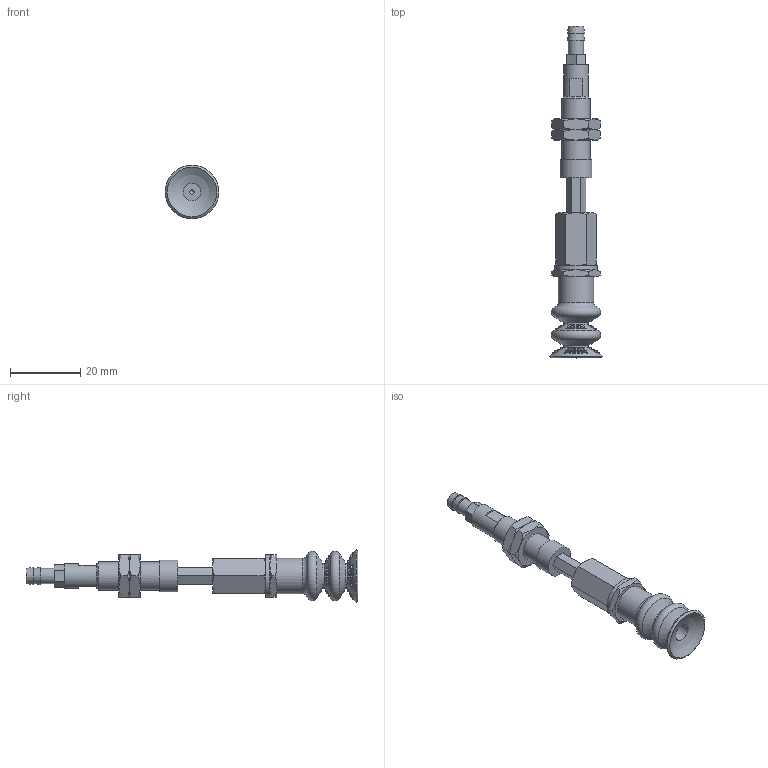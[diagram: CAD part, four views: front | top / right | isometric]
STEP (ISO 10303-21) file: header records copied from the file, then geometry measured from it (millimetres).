
FILE_DESCRIPTION(('STEP AP203'),'1');
FILE_NAME('-T.stp','2025-08-27T01:53:05',(' '),(' '),'Spatial InterOp 3D',' ',' ');
FILE_SCHEMA(('CONFIG_CONTROL_DESIGN'));
Length unit declared in the file: millimetre
Products named in the file (8): BNABPCTH-15-10-※-T; ADAPTER; NAPCTH-10-10-MBODY; Adapter_napc-15-T; Nut napc_h-15-10; NAPCTH-15-10-FBODY; BPCG-15-※; T
Assembly tree (8 placements, depth 2):
  BNABPCTH-15-10-※-T
    ADAPTER
    NAPCTH-10-10-MBODY
    Adapter_napc-15-T
    Nut napc_h-15-10  x2
    NAPCTH-15-10-FBODY
    BPCG-15-※
    T
Bounding box: 15.2 x 94.2 x 15.2 mm (x, y, z)
Volume: 5757.2 mm3; surface area: 6099.2 mm2
Topology: 8 solids, 8 shells, 248 faces, 723 edges, 466 vertices
Faces by surface type: plane 72, cone 66, sphere 58, torus 34, cylinder 18
Full cylindrical faces by diameter (mm): 1.25 x1, 3 x1, 4.134 x2, 4.3 x1, 5 x6, 7 x1, 7.188 x2, 8 x1, 9 x1, 10 x1, 12 x1
Entity records: 7125 total; most frequent: CARTESIAN_POINT 1990, DIRECTION 1028, ORIENTED_EDGE 880, AXIS2_PLACEMENT_3D 474, EDGE_CURVE 440, EDGE_LOOP 314, VERTEX_POINT 309, FACE_OUTER_BOUND 250
